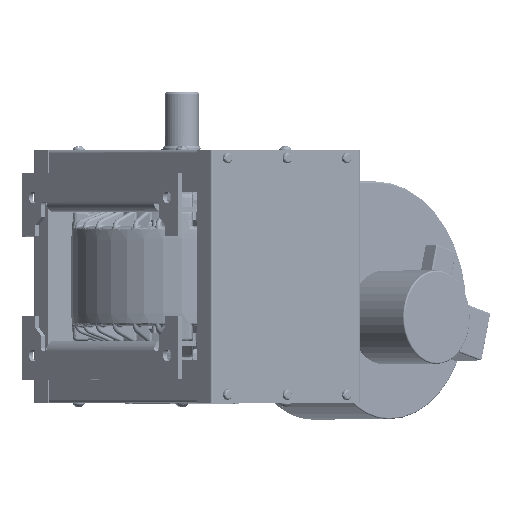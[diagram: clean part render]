
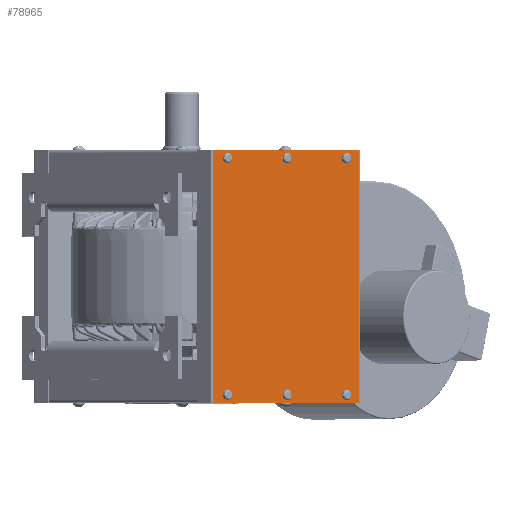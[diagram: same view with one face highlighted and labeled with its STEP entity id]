
A CAD part, top view. The second image highlights one B-rep face of the part: STEP entity #78965.
In plain terms, the highlighted planar face has unit normal (0.707, 0, 0.707).
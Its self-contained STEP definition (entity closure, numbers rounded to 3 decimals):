
#6102=FACE_BOUND('',#17327,.T.);
#6103=FACE_BOUND('',#17328,.T.);
#6104=FACE_BOUND('',#17329,.T.);
#6105=FACE_BOUND('',#17330,.T.);
#6106=FACE_BOUND('',#17331,.T.);
#6107=FACE_BOUND('',#17332,.T.);
#6929=PLANE('',#86214);
#12245=FACE_OUTER_BOUND('',#17326,.T.);
#17326=EDGE_LOOP('',(#67511,#67512,#67513,#67514));
#17327=EDGE_LOOP('',(#67515));
#17328=EDGE_LOOP('',(#67516));
#17329=EDGE_LOOP('',(#67517));
#17330=EDGE_LOOP('',(#67518));
#17331=EDGE_LOOP('',(#67519));
#17332=EDGE_LOOP('',(#67520));
#22267=CIRCLE('',#85956,0.246);
#22278=CIRCLE('',#85978,0.246);
#22322=CIRCLE('',#86066,0.246);
#22344=CIRCLE('',#86110,0.246);
#22402=CIRCLE('',#86215,0.246);
#22403=CIRCLE('',#86216,0.246);
#26178=LINE('',#201377,#29530);
#26179=LINE('',#201379,#29531);
#26180=LINE('',#201381,#29532);
#26181=LINE('',#201382,#29533);
#29530=VECTOR('',#102730,39.37);
#29531=VECTOR('',#102731,39.37);
#29532=VECTOR('',#102732,39.37);
#29533=VECTOR('',#102733,39.37);
#35798=VERTEX_POINT('',#200577);
#35811=VERTEX_POINT('',#200658);
#35863=VERTEX_POINT('',#200982);
#35889=VERTEX_POINT('',#201144);
#35941=VERTEX_POINT('',#201375);
#35942=VERTEX_POINT('',#201376);
#35943=VERTEX_POINT('',#201378);
#35944=VERTEX_POINT('',#201380);
#35945=VERTEX_POINT('',#201383);
#35946=VERTEX_POINT('',#201385);
#46460=EDGE_CURVE('',#35798,#35798,#22267,.T.);
#46481=EDGE_CURVE('',#35811,#35811,#22278,.T.);
#46565=EDGE_CURVE('',#35863,#35863,#22322,.T.);
#46607=EDGE_CURVE('',#35889,#35889,#22344,.T.);
#46702=EDGE_CURVE('',#35941,#35942,#26178,.T.);
#46703=EDGE_CURVE('',#35942,#35943,#26179,.T.);
#46704=EDGE_CURVE('',#35944,#35943,#26180,.T.);
#46705=EDGE_CURVE('',#35944,#35941,#26181,.T.);
#46706=EDGE_CURVE('',#35945,#35945,#22402,.T.);
#46707=EDGE_CURVE('',#35946,#35946,#22403,.T.);
#67511=ORIENTED_EDGE('',*,*,#46702,.T.);
#67512=ORIENTED_EDGE('',*,*,#46703,.T.);
#67513=ORIENTED_EDGE('',*,*,#46704,.F.);
#67514=ORIENTED_EDGE('',*,*,#46705,.T.);
#67515=ORIENTED_EDGE('',*,*,#46460,.T.);
#67516=ORIENTED_EDGE('',*,*,#46481,.T.);
#67517=ORIENTED_EDGE('',*,*,#46565,.T.);
#67518=ORIENTED_EDGE('',*,*,#46607,.T.);
#67519=ORIENTED_EDGE('',*,*,#46706,.F.);
#67520=ORIENTED_EDGE('',*,*,#46707,.F.);
#78965=ADVANCED_FACE('',(#12245,#6102,#6103,#6104,#6105,#6106,#6107),#6929,
 .F.);
#85956=AXIS2_PLACEMENT_3D('',#200579,#102137,#102138);
#85978=AXIS2_PLACEMENT_3D('',#200660,#102187,#102188);
#86066=AXIS2_PLACEMENT_3D('',#200984,#102387,#102388);
#86110=AXIS2_PLACEMENT_3D('',#201146,#102487,#102488);
#86214=AXIS2_PLACEMENT_3D('',#201374,#102728,#102729);
#86215=AXIS2_PLACEMENT_3D('',#201384,#102734,#102735);
#86216=AXIS2_PLACEMENT_3D('',#201386,#102736,#102737);
#102137=DIRECTION('center_axis',(-0.707,0.,
-0.707));
#102138=DIRECTION('ref_axis',(0.707,0.,-0.707));
#102187=DIRECTION('center_axis',(-0.707,0.,
-0.707));
#102188=DIRECTION('ref_axis',(0.707,0.,-0.707));
#102387=DIRECTION('center_axis',(-0.707,0.,
-0.707));
#102388=DIRECTION('ref_axis',(0.707,0.,-0.707));
#102487=DIRECTION('center_axis',(-0.707,0.,
-0.707));
#102488=DIRECTION('ref_axis',(0.707,0.,-0.707));
#102728=DIRECTION('center_axis',(-0.707,0.,
-0.707));
#102729=DIRECTION('ref_axis',(-0.707,0.,0.707));
#102730=DIRECTION('',(0.,-1.,0.));
#102731=DIRECTION('',(0.707,0.,-0.707));
#102732=DIRECTION('',(0.,-1.,0.));
#102733=DIRECTION('',(-0.707,0.,0.707));
#102734=DIRECTION('center_axis',(0.707,0.,
0.707));
#102735=DIRECTION('ref_axis',(0.707,0.,-0.707));
#102736=DIRECTION('center_axis',(0.707,0.,0.707));
#102737=DIRECTION('ref_axis',(0.707,0.,-0.707));
#200577=CARTESIAN_POINT('',(4.776,-3.875,3.709));
#200579=CARTESIAN_POINT('Origin',(4.95,-3.875,3.535));
#200658=CARTESIAN_POINT('',(1.947,7.375,6.538));
#200660=CARTESIAN_POINT('Origin',(2.121,7.375,6.364));
#200982=CARTESIAN_POINT('',(7.604,7.375,0.881));
#200984=CARTESIAN_POINT('Origin',(7.778,7.375,0.707));
#201144=CARTESIAN_POINT('',(1.947,-3.875,6.538));
#201146=CARTESIAN_POINT('Origin',(2.121,-3.875,6.364));
#201374=CARTESIAN_POINT('Origin',(8.485,1.75,0.));
#201375=CARTESIAN_POINT('',(1.483,7.75,7.002));
#201376=CARTESIAN_POINT('',(1.483,-4.25,7.002));
#201377=CARTESIAN_POINT('',(1.483,7.75,7.002));
#201378=CARTESIAN_POINT('',(8.416,-4.25,0.069));
#201379=CARTESIAN_POINT('',(8.485,-4.25,0.));
#201380=CARTESIAN_POINT('',(8.416,7.75,0.069));
#201381=CARTESIAN_POINT('',(8.416,-4.25,0.069));
#201382=CARTESIAN_POINT('',(8.485,7.75,0.));
#201383=CARTESIAN_POINT('',(7.604,-3.875,0.881));
#201384=CARTESIAN_POINT('Origin',(7.778,-3.875,0.707));
#201385=CARTESIAN_POINT('',(4.776,7.375,3.709));
#201386=CARTESIAN_POINT('Origin',(4.95,7.375,3.535));
